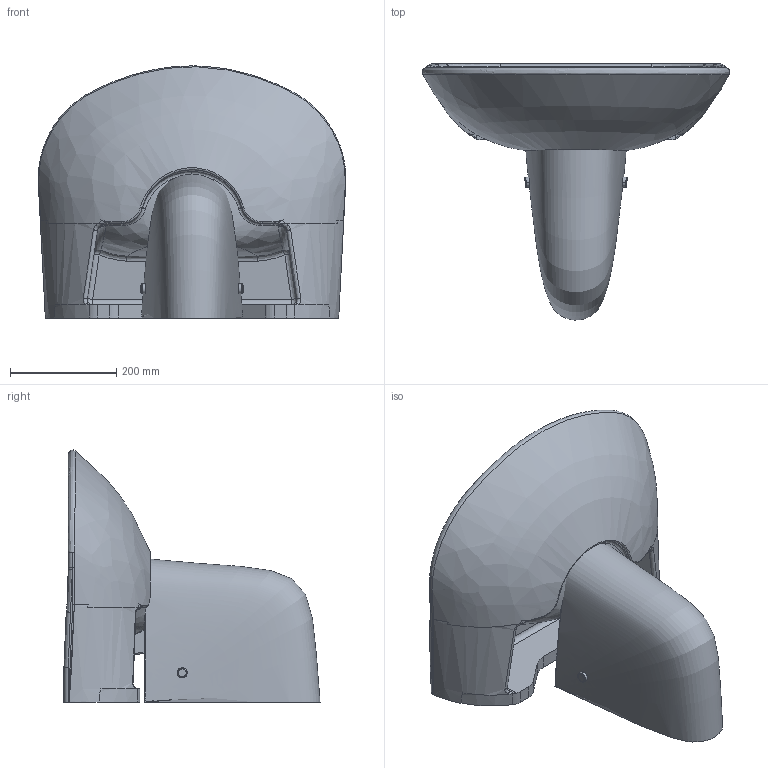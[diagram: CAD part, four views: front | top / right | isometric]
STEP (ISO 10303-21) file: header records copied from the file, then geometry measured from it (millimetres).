
FILE_DESCRIPTION (( 'STEP AP203' ), '1' );
FILE_NAME ('PA055-00CB00E-0000+SD260-00CB00E-0000.STEP', '2022-04-28T07:23:05', ( '' ), ( '' ), 'SwSTEP 2.0', 'SolidWorks 2021', '' );
FILE_SCHEMA (( 'CONFIG_CONTROL_DESIGN' ));
Products named in the file (1): PA055-00CB00E-0000+SD260-00CB00E-0000
Bounding box: 578.86 x 481.93 x 474.63 mm (x, y, z)
Volume: 11906976.8 mm3; surface area: 1231932.2 mm2
Topology: 5 solids, 5 shells, 597 faces, 1471 edges, 867 vertices
Faces by surface type: bspline 267, cylinder 144, torus 89, plane 75, sphere 16, cone 6
Entity records: 96123 total; most frequent: CARTESIAN_POINT 84092, ORIENTED_EDGE 2898, DIRECTION 1937, EDGE_CURVE 1449, VERTEX_POINT 867, AXIS2_PLACEMENT_3D 807, B_SPLINE_CURVE_WITH_KNOTS 631, EDGE_LOOP 616
